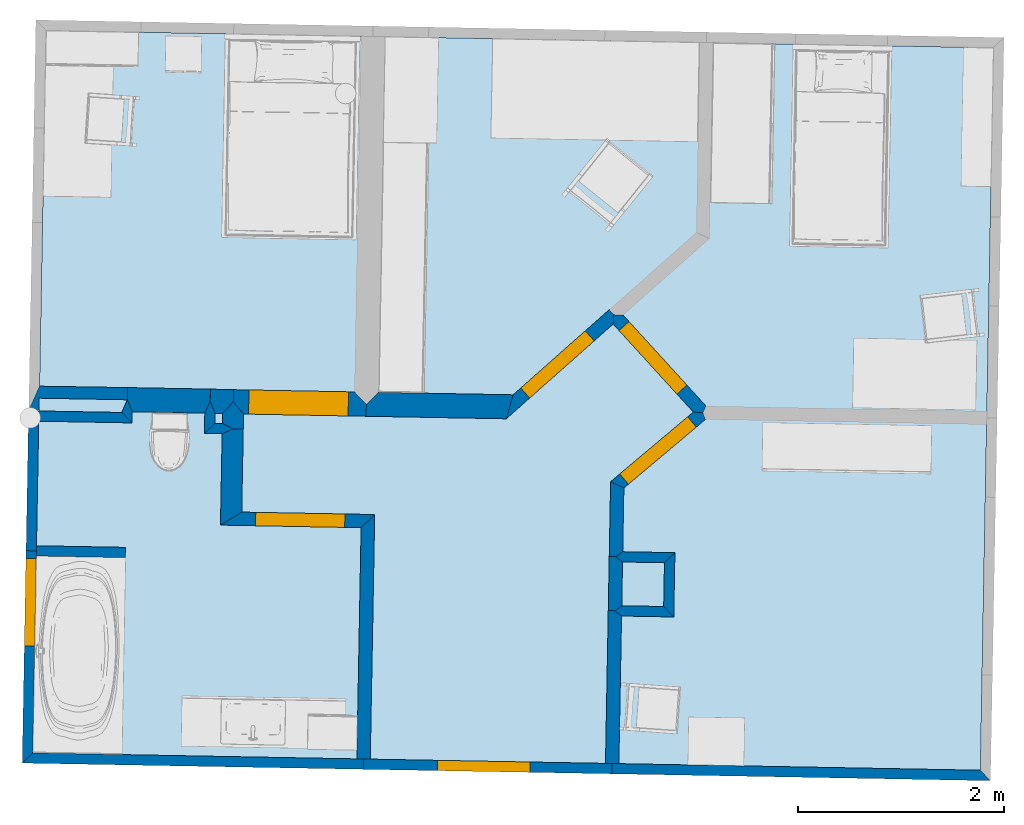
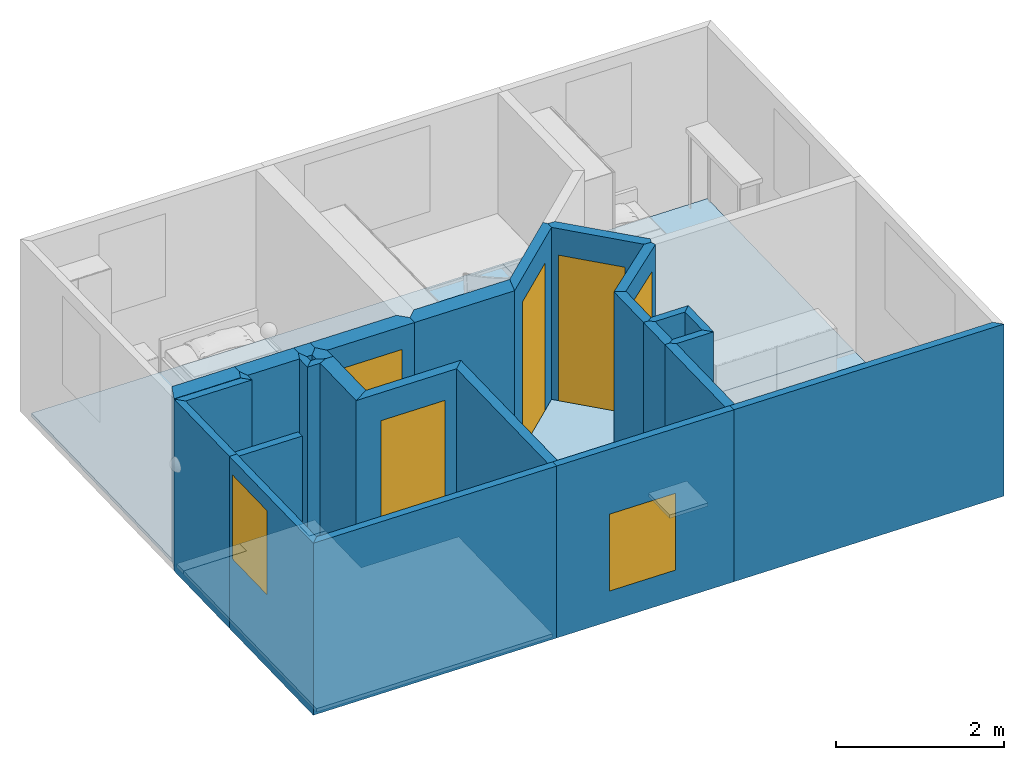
# One storey, part 1 of 9: 28 walls, 9 slabs, 5 doors, 2 windows, 7 openings.
"""IFC2X3 building model written with IfcOpenShell, lengths in metres."""

from ifc_helpers import new_model, si_unit, frame, origin_with_axes, place, context, subcontext, project, spatial, polyline, outline, extrude, type_object, element, fill, save


model = new_model("IFC2X3")

# Units and contexts
model_context = context("Model", 3, precision=1e-05, world=origin_with_axes())
body_context = subcontext(model_context, "Body", "Model", "MODEL_VIEW")
ifc_project = project(units=[si_unit("AREAUNIT", "SQUARE_METRE"), si_unit("LENGTHUNIT", "METRE")], contexts=[model_context])

# Site, building, storey
site_placement = place(None, origin_with_axes())
site = spatial("IfcSite", under=ifc_project, at=site_placement, Name="Site", CompositionType="ELEMENT")
building_placement = place(site_placement, origin_with_axes())
building = spatial("IfcBuilding", under=site, at=building_placement, Name="Building", CompositionType="ELEMENT")
storey_placement = place(building_placement, frame((0.0, 0.0, 5.74363407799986), z_axis=(0.0, 0.0, 1.0), x_axis=(1.0, 0.0, 0.0)))
storey = spatial("IfcBuildingStorey", under=building, at=storey_placement, Name="Story 2", CompositionType="ELEMENT", Elevation=5.7436338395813)

# Slabs
slab_type_1 = type_object("IfcSlabType", PredefinedType="FLOOR")
slab_1_placement = place(storey_placement, frame((-5.7735404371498, -0.941077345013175, 0.0), z_axis=(0.0, 0.0, 1.0), x_axis=(1.0, 0.0, 0.0)))
element("IfcSlab", 1, at=slab_1_placement, inside=storey, type_object=slab_type_1, Name="Floor", ObjectType="Floor:Floor-Grnd-Susp_65Scr-80Ins-100Blk-75PC", PredefinedType="FLOOR", context=body_context, shape_type="SweptSolid", body=[
    extrude(outline(polyline([(0.0, 0.0), (-0.219963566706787, 0.00400375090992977), (-0.224786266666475, -0.260952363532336), (-0.0048226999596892, -0.264956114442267), (0.0, 0.0)])), origin_with_axes(), (0.0, 0.0, -1.0), 0.05),
])
slab_type_2 = type_object("IfcSlabType", PredefinedType="FLOOR")
slab_2_placement = place(storey_placement, frame((-7.65822827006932, -0.906772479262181, 0.0), z_axis=(0.0, 0.0, 1.0), x_axis=(1.0, 0.0, 0.0)))
element("IfcSlab", 2, at=slab_2_placement, inside=storey, type_object=slab_type_2, Name="Floor", ObjectType="Floor:Floor-Grnd-Susp_65Scr-80Ins-100Blk-75PC", PredefinedType="FLOOR", context=body_context, shape_type="SweptSolid", body=[
    extrude(outline(polyline([(0.0, 0.0), (-0.00318480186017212, -0.174971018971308), (0.85667277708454, -0.190622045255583), (0.859857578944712, -0.0156510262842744), (0.0, 0.0)])), origin_with_axes(), (0.0, 0.0, -1.0), 0.05),
])
slab_type_3 = type_object("IfcSlabType", PredefinedType="FLOOR")
slab_3_placement = place(storey_placement, frame((-1.53500917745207, -2.98355208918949, 0.0), z_axis=(0.0, 0.0, 1.0), x_axis=(1.0, 0.0, 0.0)))
element("IfcSlab", 3, at=slab_3_placement, inside=storey, type_object=slab_type_3, Name="Floor", ObjectType="Floor:Floor-Grnd-Susp_65Scr-80Ins-100Blk-75PC", PredefinedType="FLOOR", context=body_context, shape_type="SweptSolid", body=[
    extrude(outline(polyline([(0.0, 0.0), (0.0095544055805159, 0.524913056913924), (-0.515358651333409, 0.534467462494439), (-0.524913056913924, 0.0095544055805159), (0.0, 0.0)])), origin_with_axes(), (0.0, 0.0, -1.0), 0.05),
])
slab_type_4 = type_object("IfcSlabType", PredefinedType="FLOOR")
slab_4_placement = place(storey_placement, frame((-4.4121604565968, 2.61108039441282, 0.0), z_axis=(0.0, 0.0, 1.0), x_axis=(1.0, 0.0, 0.0)))
element("IfcSlab", 4, at=slab_4_placement, inside=storey, type_object=slab_type_4, Name="Floor", ObjectType="Floor:Floor-Grnd-Susp_65Scr-80Ins-100Blk-75PC", PredefinedType="FLOOR", context=body_context, shape_type="SweptSolid", body=[
    extrude(outline(polyline([(0.0, 0.0), (-0.0650911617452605, -3.57603650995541), (-1.35922567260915, -3.55248077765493), (-1.58360715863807, -3.54839660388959), (-2.38871234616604, -3.53374214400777), (-3.24501255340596, -3.51815604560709), (-3.17992211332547, 0.0578811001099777), (0.0, 0.0)])), origin_with_axes(), (0.0, 0.0, -1.0), 0.05),
])
slab_type_5 = type_object("IfcSlabType", PredefinedType="FLOOR")
slab_5_placement = place(storey_placement, frame((1.4935970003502, -4.52392646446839, 0.0), z_axis=(0.0, 0.0, 1.0), x_axis=(1.0, 0.0, 0.0)))
element("IfcSlab", 5, at=slab_5_placement, inside=storey, type_object=slab_type_5, Name="Floor", ObjectType="Floor:Floor-Grnd-Susp_65Scr-80Ins-100Blk-75PC", PredefinedType="FLOOR", context=body_context, shape_type="SweptSolid", body=[
    extrude(outline(polyline([(0.0, 0.0), (-3.58029196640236, 0.0651684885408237), (-3.55325946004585, 1.55029951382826), (-3.03052750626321, 1.5407844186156), (-3.02096353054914, 2.06620672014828), (-3.5436956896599, 2.07572135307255), (-3.53097012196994, 2.77485781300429), (-2.69728105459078, 3.476120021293), (0.0623587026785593, 3.42588438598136), (0.0, 0.0)])), origin_with_axes(), (0.0, 0.0, -1.0), 0.05),
])
slab_type_6 = type_object("IfcSlabType", PredefinedType="FLOOR")
slab_6_placement = place(storey_placement, frame((-6.00054522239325, -1.19979342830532, 0.0), z_axis=(0.0, 0.0, 1.0), x_axis=(1.0, 0.0, 0.0)))
element("IfcSlab", 6, at=slab_6_placement, inside=storey, type_object=slab_type_6, Name="Floor", ObjectType="Floor:Floor-Grnd-Susp_65Scr-80Ins-100Blk-75PC", PredefinedType="FLOOR", context=body_context, shape_type="SweptSolid", body=[
    extrude(outline(polyline([(0.0, 0.0), (0.22438146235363, -0.00408426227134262), (0.208480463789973, -0.877675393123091), (1.53872066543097, -0.90188900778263), (1.49661762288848, -3.21496616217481), (-1.72046993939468, -3.15640797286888), (-1.68470574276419, -1.19158325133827), (-1.66084669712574, 0.119212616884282), (-0.803485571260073, 0.103607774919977), (-0.800327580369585, 0.277131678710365), (0.00488090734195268, 0.268152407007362), (0.0, 0.0)])), origin_with_axes(), (0.0, 0.0, -1.0), 0.05),
])
slab_type_7 = type_object("IfcSlabType", PredefinedType="FLOOR")
slab_7_placement = place(storey_placement, frame((-2.07220520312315, -0.0944287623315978, 0.0), z_axis=(0.0, 0.0, 1.0), x_axis=(1.0, 0.0, 0.0)))
element("IfcSlab", 7, at=slab_7_placement, inside=storey, type_object=slab_type_7, Name="Floor", ObjectType="Floor:Floor-Grnd-Susp_65Scr-80Ins-100Blk-75PC", PredefinedType="FLOOR", context=body_context, shape_type="SweptSolid", body=[
    extrude(outline(polyline([(0.0, 0.0), (0.867823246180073, 0.768983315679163), (0.901997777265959, 2.64649830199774), (3.69367584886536, 2.59568427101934), (3.62816086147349, -1.0036133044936), (0.868521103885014, -0.953377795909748), (0.0, 0.0)])), origin_with_axes(), (0.0, 0.0, -1.0), 0.05),
])
slab_type_8 = type_object("IfcSlabType", PredefinedType="FLOOR")
slab_8_placement = place(storey_placement, frame((-3.08325868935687, -0.990329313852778, 0.0), z_axis=(0.0, 0.0, 1.0), x_axis=(1.0, 0.0, 0.0)))
element("IfcSlab", 8, at=slab_8_placement, inside=storey, type_object=slab_type_8, Name="Floor", ObjectType="Floor:Floor-Grnd-Susp_65Scr-80Ins-100Blk-75PC", PredefinedType="FLOOR", context=body_context, shape_type="SweptSolid", body=[
    extrude(outline(polyline([(0.0, 0.0), (1.01105357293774, 0.895900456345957), (1.8795746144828, -0.0574772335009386), (1.04588575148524, -0.758739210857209), (1.03316000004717, -1.45787579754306), (1.02359622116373, -1.98329763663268), (0.996563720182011, -3.46842883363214), (-1.4206685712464, -3.42442978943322), (-1.37856581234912, -1.11135309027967), (-2.70880624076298, -1.08713958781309), (-2.69290507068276, -0.213548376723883), (-2.68812743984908, 0.0489289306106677), (-1.3939929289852, 0.0253731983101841), (0.0, 0.0)])), origin_with_axes(), (0.0, 0.0, -1.0), 0.05),
])
slab_type_9 = type_object("IfcSlabType", PredefinedType="FLOOR")
slab_9_placement = place(storey_placement, frame((-2.07220520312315, -0.0944287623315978, 0.0), z_axis=(0.0, 0.0, 1.0), x_axis=(1.0, 0.0, 0.0)))
element("IfcSlab", 9, at=slab_9_placement, inside=storey, type_object=slab_type_9, Name="Floor", ObjectType="Floor:Floor-Grnd-Susp_65Scr-80Ins-100Blk-75PC", PredefinedType="FLOOR", context=body_context, shape_type="SweptSolid", body=[
    extrude(outline(polyline([(0.0, 0.0), (-1.01105372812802, -0.895900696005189), (-2.40504641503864, -0.87052734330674), (-2.3399553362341, 2.70550914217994), (0.90199791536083, 2.64649830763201), (0.867823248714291, 0.768983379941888), (0.0, 0.0)])), origin_with_axes(), (0.0, 0.0, -1.0), 0.05),
])

# Wall, opening, door
wall_type_1 = type_object("IfcWallType", PredefinedType="STANDARD")
wall_1_placement = place(storey_placement, frame((-4.5928237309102, -0.845418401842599, 0.0), z_axis=(0.0, 0.0, 1.0), x_axis=(1.0, 0.0, 0.0)))
wall_1 = element("IfcWallStandardCase", 10, at=wall_1_placement, inside=storey, type_object=wall_type_1, Name="Wall", context=body_context, shape_type="SweptSolid", body=[
    extrude(outline(polyline([(0.0, 0.0), (0.115572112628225, -0.119537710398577), (0.113435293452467, -0.236932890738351), (-1.0783857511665, -0.215239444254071), (-1.17856239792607, -0.0959819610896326), (-1.17642557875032, 0.0214132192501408), (0.0, 0.0)])), origin_with_axes(), (0.0, 0.0, 1.0), 2.5045898),
])
opening_1_placement = place(wall_1_placement, frame((-0.0575056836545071, 0.00104671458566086, 0.0), z_axis=(0.0, 0.0, 1.0), x_axis=(-0.999834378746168, 0.0181989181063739, 0.0)))
opening_1 = element("IfcOpeningElement", 11, at=opening_1_placement, cuts=wall_1, Name="OpeningElement", ObjectType="OPENING", context=body_context, shape_type="SweptSolid", body=[
    extrude(outline(polyline([(-8.88178419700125e-16, 0.0), (0.967749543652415, 0.0), (0.967749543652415, 2.16920035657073), (-8.88178419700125e-16, 2.16920035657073), (-8.88178419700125e-16, 0.0)])), frame((0.0, 0.0, 0.0), z_axis=(0.0, -1.0, 0.0), x_axis=(1.0, 0.0, 0.0)), (0.0, 0.0, -1.0), 0.23492925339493),
])
door_style_1 = type_object("IfcDoorStyle", Name="c1308d72-0b3a-43ef-8f4e-69cf9a96507d", ConstructionType="NOTDEFINED", OperationType="NOTDEFINED", ParameterTakesPrecedence=False, Sizeable=False)
door_1_placement = place(opening_1_placement, origin_with_axes())
door_1 = element("IfcDoor", 12, at=door_1_placement, inside=storey, type_object=door_style_1, Name="Door", OverallHeight=2.16920058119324, OverallWidth=0.967749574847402, context=body_context, shape_type="SweptSolid", body=[
    extrude(outline(polyline([(0.0, 0.0), (-0.967749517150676, 0.0), (-0.967749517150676, 2.16920032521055), (0.0, 2.16920032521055), (0.0, 0.0)])), frame((0.0, 0.23482925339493, 0.0), z_axis=(0.0, 1.0, 0.0), x_axis=(-1.0, 0.0, 0.0)), (0.0, 0.0, -1.0), 0.23482925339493),
])
fill(opening_1, door_1)

# Walls
wall_type_2 = type_object("IfcWallType", PredefinedType="STANDARD")
wall_2_placement = place(storey_placement, frame((-5.99260674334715, -0.818051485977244, 0.0), z_axis=(0.0, 0.0, 1.0), x_axis=(1.0, 0.0, 0.0)))
element("IfcWallStandardCase", 13, at=wall_2_placement, inside=storey, type_object=wall_type_2, Name="Wall", context=body_context, shape_type="SweptSolid", body=[
    extrude(outline(polyline([(0.0, 0.0), (0.224347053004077, -0.00597588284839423), (0.221220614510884, -0.123348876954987), (0.116785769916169, -0.238023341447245), (0.0447207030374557, -0.236103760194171), (-0.00312643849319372, -0.117372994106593), (0.0, 0.0)])), origin_with_axes(), (0.0, 0.0, 1.0), 2.5045898),
])
wall_type_3 = type_object("IfcWallType", PredefinedType="STANDARD")
wall_3_placement = place(storey_placement, frame((-6.79896091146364, -0.803370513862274, 0.0), z_axis=(0.0, 0.0, 1.0), x_axis=(1.0, 0.0, 0.0)))
element("IfcWallStandardCase", 14, at=wall_3_placement, inside=storey, type_object=wall_type_3, Name="Wall", context=body_context, shape_type="SweptSolid", body=[
    extrude(outline(polyline([(0.0, 0.0), (-0.00187746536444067, -0.117399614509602), (-0.0540075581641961, -0.23399558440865), (-0.960336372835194, -0.219501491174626), (-0.856075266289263, 0.0136904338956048), (0.0, 0.0)])), origin_with_axes(), (0.0, 0.0, 1.0), 2.5045898),
])
wall_type_4 = type_object("IfcWallType", PredefinedType="STANDARD")
wall_4_placement = place(storey_placement, frame((-5.99359637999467, -0.818029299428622, 0.0), z_axis=(0.0, 0.0, 1.0), x_axis=(1.0, 0.0, 0.0)))
element("IfcWallStandardCase", 15, at=wall_4_placement, inside=storey, type_object=wall_type_4, Name="Wall", context=body_context, shape_type="SweptSolid", body=[
    extrude(outline(polyline([(0.0, 0.0), (-0.00213680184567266, -0.117395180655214), (-0.0542653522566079, -0.233880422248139), (-0.759386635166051, -0.221045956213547), (-0.807241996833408, -0.102740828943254), (-0.805105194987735, 0.0146543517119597), (0.0, 0.0)])), origin_with_axes(), (0.0, 0.0, 1.0), 2.5045898),
])
wall_type_5 = type_object("IfcWallType", PredefinedType="STANDARD")
wall_5_placement = place(storey_placement, frame((1.49359704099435, -4.52392646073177, 0.0), z_axis=(0.0, 0.0, 1.0), x_axis=(1.0, 0.0, 0.0)))
element("IfcWallStandardCase", 16, at=wall_5_placement, inside=storey, type_object=wall_type_5, Name="Wall", context=body_context, shape_type="SweptSolid", body=[
    extrude(outline(polyline([(0.0, 0.0), (0.098163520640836, -0.101803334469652), (-3.58211190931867, -0.0348150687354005), (-3.5802920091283, 0.0651683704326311), (-3.51512501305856, 0.0639822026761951), (0.0, 0.0)])), origin_with_axes(), (0.0, 0.0, 1.0), 2.5045898),
])
wall_type_6 = type_object("IfcWallType", PredefinedType="STANDARD")
wall_6_placement = place(storey_placement, frame((-2.10200085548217, -1.71826088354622, 0.0), z_axis=(0.0, 0.0, 1.0), x_axis=(1.0, 0.0, 0.0)))
element("IfcWallStandardCase", 17, at=wall_6_placement, inside=storey, type_object=wall_type_6, Name="Wall", context=body_context, shape_type="SweptSolid", body=[
    extrude(outline(polyline([(0.0, 0.0), (0.129255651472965, -0.0616154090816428), (0.117979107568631, -0.681138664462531), (0.0519021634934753, -0.729944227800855), (-0.0132648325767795, -0.728758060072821), (0.0, 0.0)])), origin_with_axes(), (0.0, 0.0, 1.0), 2.5045898),
])
wall_type_7 = type_object("IfcWallType", PredefinedType="STANDARD")
wall_7_placement = place(storey_placement, frame((-1.58601219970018, -2.93224024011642, 0.0), z_axis=(0.0, 0.0, 1.0), x_axis=(1.0, 0.0, 0.0)))
element("IfcWallStandardCase", 18, at=wall_7_placement, inside=storey, type_object=wall_type_7, Name="Wall", context=body_context, shape_type="SweptSolid", body=[
    extrude(outline(polyline([(0.0, 0.0), (0.09816351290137, -0.101803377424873), (-0.409393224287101, -0.0925646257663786), (-0.473650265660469, -0.0413867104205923), (-0.407573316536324, 0.00741881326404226), (0.0, 0.0)])), origin_with_axes(), (0.0, 0.0, 1.0), 2.5045898),
])
wall_type_8 = type_object("IfcWallType", PredefinedType="STANDARD")
wall_8_placement = place(storey_placement, frame((-1.4764648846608, -2.40863799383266, 0.0), z_axis=(0.0, 0.0, 1.0), x_axis=(1.0, 0.0, 0.0)))
element("IfcWallStandardCase", 19, at=wall_8_placement, inside=storey, type_object=wall_type_8, Name="Wall", context=body_context, shape_type="SweptSolid", body=[
    extrude(outline(polyline([(0.0, 0.0), (-0.101803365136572, -0.0981635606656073), (-0.509376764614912, -0.0907449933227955), (-0.57363380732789, -0.0395671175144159), (-0.507556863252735, 0.00923844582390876), (0.0, 0.0)])), origin_with_axes(), (0.0, 0.0, 1.0), 2.5045898),
])
wall_type_9 = type_object("IfcWallType", PredefinedType="STANDARD")
wall_9_placement = place(storey_placement, frame((-2.12482946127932, -2.97244077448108, 0.0), z_axis=(0.0, 0.0, 1.0), x_axis=(1.0, 0.0, 0.0)))
element("IfcWallStandardCase", 20, at=wall_9_placement, inside=storey, type_object=wall_type_9, Name="Wall", context=body_context, shape_type="SweptSolid", body=[
    extrude(outline(polyline([(0.0, 0.0), (0.0651669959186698, -0.00118617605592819), (0.129424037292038, -0.0523640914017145), (0.103301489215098, -1.48750348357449), (0.0381344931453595, -1.48631731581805), (-0.0270325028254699, -1.48513114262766), (0.0, 0.0)])), origin_with_axes(), (0.0, 0.0, 1.0), 2.5045898),
])
wall_type_10 = type_object("IfcWallType", PredefinedType="STANDARD")
wall_10_placement = place(storey_placement, frame((-1.57826824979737, -2.50680155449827, 0.0), z_axis=(0.0, 0.0, 1.0), x_axis=(1.0, 0.0, 0.0)))
element("IfcWallStandardCase", 21, at=wall_10_placement, inside=storey, type_object=wall_type_10, Name="Wall", context=body_context, shape_type="SweptSolid", body=[
    extrude(outline(polyline([(0.0, 0.0), (0.101803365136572, 0.0981635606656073), (0.0904195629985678, -0.527242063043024), (-0.00774394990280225, -0.425438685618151), (0.0, 0.0)])), origin_with_axes(), (0.0, 0.0, 1.0), 2.5045898),
])

# Wall, opening, door
wall_type_11 = type_object("IfcWallType", PredefinedType="STANDARD")
wall_11_placement = place(storey_placement, frame((-1.2975294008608, -1.0415752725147, 0.0), z_axis=(0.0, 0.0, 1.0), x_axis=(1.0, 0.0, 0.0)))
wall_11 = element("IfcWallStandardCase", 22, at=wall_11_placement, inside=storey, type_object=wall_type_11, Name="Wall", context=body_context, shape_type="SweptSolid", body=[
    extrude(outline(polyline([(0.0, 0.0), (0.0938453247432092, -0.0062312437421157), (0.117096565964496, -0.0718430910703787), (-0.675215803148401, -0.73830102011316), (-0.804471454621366, -0.676685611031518), (0.0, 0.0)])), origin_with_axes(), (0.0, 0.0, 1.0), 2.5045898),
])
opening_2_placement = place(wall_11_placement, frame((-0.0549251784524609, -0.0462006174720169, 0.0), z_axis=(0.0, 0.0, 1.0), x_axis=(-0.765269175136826, -0.643710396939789, 0.0)))
opening_2 = element("IfcOpeningElement", 23, at=opening_2_placement, cuts=wall_11, Name="OpeningElement", ObjectType="OPENING", context=body_context, shape_type="SweptSolid", body=[
    extrude(outline(polyline([(1.11022302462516e-16, 0.0), (0.862837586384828, 0.0), (0.862837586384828, 2.18931483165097), (1.11022302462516e-16, 2.18931483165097), (1.11022302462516e-16, 0.0)])), frame((0.0, 0.0, 0.0), z_axis=(0.0, -1.0, 0.0), x_axis=(1.0, 0.0, 0.0)), (0.0, 0.0, -1.0), 0.130455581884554),
])
door_style_2 = type_object("IfcDoorStyle", Name="886e7515-3cb0-4404-8f9d-940108160c8b", ConstructionType="NOTDEFINED", OperationType="NOTDEFINED", ParameterTakesPrecedence=False, Sizeable=False)
door_2_placement = place(opening_2_placement, origin_with_axes())
door_2 = element("IfcDoor", 24, at=door_2_placement, inside=storey, type_object=door_style_2, Name="Door", OverallHeight=2.1893148, OverallWidth=0.862837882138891, context=body_context, shape_type="SweptSolid", body=[
    extrude(outline(polyline([(0.0, 0.0), (-0.862837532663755, 0.0), (-0.862837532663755, 2.1893148), (0.0, 2.1893148), (0.0, 0.0)])), frame((0.0, 0.130355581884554, 0.0), z_axis=(0.0, 1.0, 0.0), x_axis=(-1.0, 0.0, 0.0)), (0.0, 0.0, -1.0), 0.130355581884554),
])
fill(opening_2, door_2)

# Walls
wall_type_12 = type_object("IfcWallType", PredefinedType="STANDARD")
wall_12_placement = place(storey_placement, frame((-5.94964356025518, -1.15071150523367, 0.0), z_axis=(0.0, 0.0, 1.0), x_axis=(1.0, 0.0, 0.0)))
element("IfcWallStandardCase", 25, at=wall_12_placement, inside=storey, type_object=wall_type_12, Name="Wall", context=body_context, shape_type="SweptSolid", body=[
    extrude(outline(polyline([(0.0, 0.0), (0.0720760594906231, -0.00131202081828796), (0.173479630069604, -0.0531661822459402), (0.0702561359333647, -0.101295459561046), (-0.101803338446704, -0.0981634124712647), (0.0, 0.0)])), origin_with_axes(), (0.0, 0.0, 1.0), 2.5045898),
])
wall_type_13 = type_object("IfcWallType", PredefinedType="STANDARD")
wall_13_placement = place(storey_placement, frame((-5.87938742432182, -1.25200696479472, 0.0), z_axis=(0.0, 0.0, 1.0), x_axis=(1.0, 0.0, 0.0)))
element("IfcWallStandardCase", 26, at=wall_13_placement, inside=storey, type_object=wall_type_13, Name="Wall", context=body_context, shape_type="SweptSolid", body=[
    extrude(outline(polyline([(0.0, 0.0), (0.103223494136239, 0.0481292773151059), (0.205537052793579, 0.0462669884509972), (0.190822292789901, -0.762157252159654), (-0.0161771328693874, -0.888766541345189), (0.0, 0.0)])), origin_with_axes(), (0.0, 0.0, 1.0), 2.5045898),
])
wall_type_14 = type_object("IfcWallType", PredefinedType="STANDARD")
wall_14_placement = place(storey_placement, frame((-6.85311256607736, -1.04528435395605, 0.0), z_axis=(0.0, 0.0, 1.0), x_axis=(1.0, 0.0, 0.0)))
element("IfcWallStandardCase", 27, at=wall_14_placement, inside=storey, type_object=wall_type_14, Name="Wall", context=body_context, shape_type="SweptSolid", body=[
    extrude(outline(polyline([(0.0, 0.0), (0.0981639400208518, -0.101803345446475), (-0.809189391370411, -0.0852876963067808), (-0.90735291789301, 0.0165156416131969), (0.0, 0.0)])), origin_with_axes(), (0.0, 0.0, 1.0), 2.5045898),
])
wall_type_15 = type_object("IfcWallType", PredefinedType="STANDARD")
wall_15_placement = place(storey_placement, frame((-7.76046548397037, -1.02876871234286, 0.0), z_axis=(0.0, 0.0, 1.0), x_axis=(1.0, 0.0, 0.0)))
element("IfcWallStandardCase", 28, at=wall_15_placement, inside=storey, type_object=wall_type_15, Name="Wall", context=body_context, shape_type="SweptSolid", body=[
    extrude(outline(polyline([(0.0, 0.0), (0.0981635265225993, -0.101803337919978), (0.0761241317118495, -1.31261665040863), (0.0752141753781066, -1.3626083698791), (-0.0247692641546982, -1.36078848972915), (0.0, 0.0)])), origin_with_axes(), (0.0, 0.0, 1.0), 2.5045898),
])

# Wall, opening, window
wall_type_16 = type_object("IfcWallType", PredefinedType="STANDARD")
wall_16_placement = place(storey_placement, frame((-7.78523474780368, -2.38955718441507, 0.0), z_axis=(0.0, 0.0, 1.0), x_axis=(1.0, 0.0, 0.0)))
wall_16 = element("IfcWallStandardCase", 29, at=wall_16_placement, inside=storey, type_object=wall_type_16, Name="Wall", context=body_context, shape_type="SweptSolid", body=[
    extrude(outline(polyline([(0.0, 0.0), (0.0999834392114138, -0.00181989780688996), (0.0990734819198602, -0.0518116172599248), (0.0642193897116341, -1.96664434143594), (-0.0375839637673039, -2.06480786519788), (0.0, 0.0)])), origin_with_axes(), (0.0, 0.0, 1.0), 2.5045898),
])
opening_3_placement = place(wall_16_placement, frame((0.0831373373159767, -0.927320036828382, 1.05758511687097), z_axis=(0.0, 0.0, 1.0), x_axis=(0.0181991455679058, 0.999834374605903, 0.0)))
opening_3 = element("IfcOpeningElement", 30, at=opening_3_placement, cuts=wall_16, Name="OpeningElement", ObjectType="OPENING", context=body_context, shape_type="SweptSolid", body=[
    extrude(outline(polyline([(1.66533453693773e-16, 0.0), (0.850924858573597, 0.0), (0.850924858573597, 1.22356961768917), (1.66533453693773e-16, 1.22356961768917), (1.66533453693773e-16, 0.0)])), frame((0.0, 0.0, 0.0), z_axis=(0.0, -1.0, 0.0), x_axis=(1.0, 0.0, 0.0)), (0.0, 0.0, -1.0), 0.100100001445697),
])
window_style_1 = type_object("IfcWindowStyle", Name="39d028ae-d947-4b0d-b80b-2f898228ae9d", ConstructionType="ALUMINIUM", OperationType="SINGLE_PANEL", ParameterTakesPrecedence=True, Sizeable=True)
window_1_placement = place(opening_3_placement, origin_with_axes())
window_1 = element("IfcWindow", 31, at=window_1_placement, inside=storey, type_object=window_style_1, Name="Window", OverallHeight=1.5, OverallWidth=0.5, context=body_context, shape_type="SweptSolid", body=[
    extrude(outline(polyline([(-2.77555756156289e-17, 0.0), (-0.850924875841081, 0.0), (-0.850924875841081, 1.2235696), (-2.77555756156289e-17, 1.2235696), (-2.77555756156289e-17, 0.0)])), frame((0.0, 0.100000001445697, 0.0), z_axis=(0.0, 1.0, 0.0), x_axis=(-1.0, 0.0, 0.0)), (0.0, 0.0, -1.0), 0.100000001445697),
])
fill(opening_3, window_1)

# Walls
wall_type_17 = type_object("IfcWallType", PredefinedType="STANDARD")
wall_17_placement = place(storey_placement, frame((-4.52817770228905, -2.16566322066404, 0.0), z_axis=(0.0, 0.0, 1.0), x_axis=(1.0, 0.0, 0.0)))
element("IfcWallStandardCase", 32, at=wall_17_placement, inside=storey, type_object=wall_type_17, Name="Wall", context=body_context, shape_type="SweptSolid", body=[
    extrude(outline(polyline([(0.0, 0.0), (0.132706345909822, 0.127961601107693), (0.0894172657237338, -2.25028244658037), (0.0242502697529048, -2.24909627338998), (-0.0409167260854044, -2.24791009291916), (0.0, 0.0)])), origin_with_axes(), (0.0, 0.0, 1.0), 2.5045898),
])
wall_type_18 = type_object("IfcWallType", PredefinedType="STANDARD")
wall_18_placement = place(storey_placement, frame((-6.81921311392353, -2.35713308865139, 0.0), z_axis=(0.0, 0.0, 1.0), x_axis=(1.0, 0.0, 0.0)))
element("IfcWallStandardCase", 33, at=wall_18_placement, inside=storey, type_object=wall_type_18, Name="Wall", context=body_context, shape_type="SweptSolid", body=[
    extrude(outline(polyline([(0.0, 0.0), (-0.00181997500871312, -0.0999834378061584), (-0.866948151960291, -0.0842357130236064), (-0.866038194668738, -0.0342439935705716), (-0.865128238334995, 0.0157477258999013), (0.0, 0.0)])), origin_with_axes(), (0.0, 0.0, 1.0), 2.5045898),
])
wall_type_19 = type_object("IfcWallType", PredefinedType="STANDARD")
wall_19_placement = place(storey_placement, frame((-6.80083837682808, -0.920770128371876, 0.0), z_axis=(0.0, 0.0, 1.0), x_axis=(1.0, 0.0, 0.0)))
element("IfcWallStandardCase", 34, at=wall_19_placement, inside=storey, type_object=wall_type_19, Name="Wall", context=body_context, shape_type="SweptSolid", body=[
    extrude(outline(polyline([(0.0, 0.0), (0.0478553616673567, -0.118305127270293), (0.0458897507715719, -0.226317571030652), (-0.05227418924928, -0.124514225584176), (-0.0521300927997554, -0.116595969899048), (0.0, 0.0)])), origin_with_axes(), (0.0, 0.0, 1.0), 2.5045898),
])
wall_type_20 = type_object("IfcWallType", PredefinedType="STANDARD")
wall_20_placement = place(storey_placement, frame((-4.56909442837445, -4.41357331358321, 0.0), z_axis=(0.0, 0.0, 1.0), x_axis=(1.0, 0.0, 0.0)))
element("IfcWallStandardCase", 35, at=wall_20_placement, inside=storey, type_object=wall_type_20, Name="Wall", context=body_context, shape_type="SweptSolid", body=[
    extrude(outline(polyline([(0.0, 0.0), (0.0651669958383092, -0.00118618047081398), (0.0633470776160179, -0.101169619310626), (-3.25372428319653, -0.0407917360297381), (-3.15192092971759, 0.0573717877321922), (0.0, 0.0)])), origin_with_axes(), (0.0, 0.0, 1.0), 2.5045898),
])
wall_type_21 = type_object("IfcWallType", PredefinedType="STANDARD")
wall_21_placement = place(storey_placement, frame((-5.99573318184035, -0.935424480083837, 0.0), z_axis=(0.0, 0.0, 1.0), x_axis=(1.0, 0.0, 0.0)))
element("IfcWallStandardCase", 36, at=wall_21_placement, inside=storey, type_object=wall_type_21, Name="Wall", context=body_context, shape_type="SweptSolid", body=[
    extrude(outline(polyline([(0.0, 0.0), (0.0478471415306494, -0.118730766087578), (0.0460896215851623, -0.215287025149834), (-0.0557137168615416, -0.313450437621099), (-0.0521285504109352, -0.116485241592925), (0.0, 0.0)])), origin_with_axes(), (0.0, 0.0, 1.0), 2.5045898),
])

# Wall, opening, door
wall_type_22 = type_object("IfcWallType", PredefinedType="STANDARD")
wall_22_placement = place(storey_placement, frame((-4.39547135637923, -2.03770161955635, 0.0), z_axis=(0.0, 0.0, 1.0), x_axis=(1.0, 0.0, 0.0)))
wall_22 = element("IfcWallStandardCase", 37, at=wall_22_placement, inside=storey, type_object=wall_type_22, Name="Wall", context=body_context, shape_type="SweptSolid", body=[
    extrude(outline(polyline([(0.0, 0.0), (-0.132706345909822, -0.127961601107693), (-1.50009320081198, -0.103071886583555), (-1.29309377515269, 0.0235374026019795), (0.0, 0.0)])), origin_with_axes(), (0.0, 0.0, 1.0), 2.5045898),
])
opening_4_placement = place(wall_22_placement, frame((-1.15885490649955, -0.109283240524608, 0.0), z_axis=(0.0, 0.0, 1.0), x_axis=(0.999834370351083, -0.0181993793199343, 0.0)))
opening_4 = element("IfcOpeningElement", 38, at=opening_4_placement, cuts=wall_22, Name="OpeningElement", ObjectType="OPENING", context=body_context, shape_type="SweptSolid", body=[
    extrude(outline(polyline([(8.88178419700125e-16, 0.0), (0.866465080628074, 0.0), (0.866465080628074, 2.09763033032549), (8.88178419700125e-16, 2.09763033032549), (8.88178419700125e-16, 0.0)])), frame((0.0, 0.0, 0.0), z_axis=(0.0, -1.0, 0.0), x_axis=(1.0, 0.0, 0.0)), (0.0, 0.0, -1.0), 0.130455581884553),
])
door_style_3 = type_object("IfcDoorStyle", Name="c78be9d6-8476-4d29-8efb-0273d6614dbd", ConstructionType="NOTDEFINED", OperationType="NOTDEFINED", ParameterTakesPrecedence=False, Sizeable=False)
door_3_placement = place(opening_4_placement, origin_with_axes())
door_3 = element("IfcDoor", 39, at=door_3_placement, inside=storey, type_object=door_style_3, Name="Door", OverallHeight=2.0976303, OverallWidth=0.866465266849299, context=body_context, shape_type="SweptSolid", body=[
    extrude(outline(polyline([(0.0, 0.0), (-0.866465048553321, 0.0), (-0.866465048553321, 2.0976303), (0.0, 2.0976303), (0.0, 0.0)])), frame((0.0, 0.130355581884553, 0.0), z_axis=(0.0, 1.0, 0.0), x_axis=(-1.0, 0.0, 0.0)), (0.0, 0.0, -1.0), 0.130355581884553),
])
fill(opening_4, door_3)

wall_type_23 = type_object("IfcWallType", PredefinedType="STANDARD")
wall_23_placement = place(storey_placement, frame((-2.07709397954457, -0.185845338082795, 0.0), z_axis=(0.0, 0.0, 1.0), x_axis=(1.0, 0.0, 0.0)))
wall_23 = element("IfcWallStandardCase", 40, at=wall_23_placement, inside=storey, type_object=wall_type_23, Name="Wall", context=body_context, shape_type="SweptSolid", body=[
    extrude(outline(polyline([(0.0, 0.0), (0.00488880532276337, 0.0914165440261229), (0.0975729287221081, 0.0864599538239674), (0.902677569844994, -0.79730536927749), (0.873409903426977, -0.861961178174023), (0.779564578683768, -0.855729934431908), (0.0, 0.0)])), origin_with_axes(), (0.0, 0.0, 1.0), 2.5045898),
])
opening_5_placement = place(wall_23_placement, frame((0.716331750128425, -0.592753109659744, 0.0), z_axis=(0.0, 0.0, 1.0), x_axis=(-0.673442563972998, 0.739239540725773, 0.0)))
opening_5 = element("IfcOpeningElement", 41, at=opening_5_placement, cuts=wall_23, Name="OpeningElement", ObjectType="OPENING", context=body_context, shape_type="SweptSolid", body=[
    extrude(outline(polyline([(1.11022302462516e-16, 0.0), (0.834354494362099, 0.0), (0.834354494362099, 2.11874531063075), (1.11022302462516e-16, 2.11874531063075), (1.11022302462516e-16, 0.0)])), frame((0.0, 0.0, 0.0), z_axis=(0.0, -1.0, 0.0), x_axis=(1.0, 0.0, 0.0)), (0.0, 0.0, -1.0), 0.130455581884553),
])
door_style_4 = type_object("IfcDoorStyle", Name="887efcb5-b1ac-44dd-8438-cd4a9349de27", ConstructionType="NOTDEFINED", OperationType="NOTDEFINED", ParameterTakesPrecedence=False, Sizeable=False)
door_4_placement = place(opening_5_placement, origin_with_axes())
door_4 = element("IfcDoor", 42, at=door_4_placement, inside=storey, type_object=door_style_4, Name="Door", OverallHeight=2.11874528, OverallWidth=0.834354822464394, context=body_context, shape_type="SweptSolid", body=[
    extrude(outline(polyline([(0.0, 0.0), (-0.834354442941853, 0.0), (-0.834354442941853, 2.11874528), (0.0, 2.11874528), (0.0, 0.0)])), frame((0.0, 0.130355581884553, 0.0), z_axis=(0.0, 1.0, 0.0), x_axis=(-1.0, 0.0, 0.0)), (0.0, 0.0, -1.0), 0.130355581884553),
])
fill(opening_5, door_4)

wall_type_24 = type_object("IfcWallType", PredefinedType="STANDARD")
wall_24_placement = place(storey_placement, frame((-2.11543105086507, -0.0456469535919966, 0.0), z_axis=(0.0, 0.0, 1.0), x_axis=(1.0, 0.0, 0.0)))
wall_24 = element("IfcWallStandardCase", 43, at=wall_24_placement, inside=storey, type_object=wall_type_24, Name="Wall", context=body_context, shape_type="SweptSolid", body=[
    extrude(outline(polyline([(0.0, 0.0), (0.0432258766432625, -0.0487818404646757), (0.0383370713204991, -0.140198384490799), (-1.00138882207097, -1.06150563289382), (-0.93426669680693, -0.827859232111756), (0.0, 0.0)])), origin_with_axes(), (0.0, 0.0, 1.0), 2.5045898),
])
opening_6_placement = place(wall_24_placement, frame((-0.232707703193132, -0.206203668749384, 0.0), z_axis=(0.0, 0.0, 1.0), x_axis=(-0.748442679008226, -0.663199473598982, 0.0)))
opening_6 = element("IfcOpeningElement", 44, at=opening_6_placement, cuts=wall_24, Name="OpeningElement", ObjectType="OPENING", context=body_context, shape_type="SweptSolid", body=[
    extrude(outline(polyline([(0.0, 0.0), (0.838237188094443, 0.0), (0.838237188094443, 2.14533822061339), (0.0, 2.14533822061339), (0.0, 0.0)])), frame((0.0, 0.0, 0.0), z_axis=(0.0, -1.0, 0.0), x_axis=(1.0, 0.0, 0.0)), (0.0, 0.0, -1.0), 0.130455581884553),
])
door_style_5 = type_object("IfcDoorStyle", Name="7c8e877b-0d0c-487a-b432-7e8985aa4b71", ConstructionType="NOTDEFINED", OperationType="NOTDEFINED", ParameterTakesPrecedence=False, Sizeable=False)
door_5_placement = place(opening_6_placement, origin_with_axes())
door_5 = element("IfcDoor", 45, at=door_5_placement, inside=storey, type_object=door_style_5, Name="Door", OverallHeight=2.14533826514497, OverallWidth=0.838237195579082, context=body_context, shape_type="SweptSolid", body=[
    extrude(outline(polyline([(-2.22044604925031e-16, 0.0), (-0.838237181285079, 0.0), (-0.838237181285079, 2.14533818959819), (-2.22044604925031e-16, 2.14533818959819), (-2.22044604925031e-16, 0.0)])), frame((0.0, 0.130355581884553, 0.0), z_axis=(0.0, 1.0, 0.0), x_axis=(-1.0, 0.0, 0.0)), (0.0, 0.0, -1.0), 0.130355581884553),
])
fill(opening_6, door_5)

# Wall, opening, window
wall_type_25 = type_object("IfcWallType", PredefinedType="STANDARD")
wall_25_placement = place(storey_placement, frame((-2.15186196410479, -4.45757191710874, 0.0), z_axis=(0.0, 0.0, 1.0), x_axis=(1.0, 0.0, 0.0)))
wall_25 = element("IfcWallStandardCase", 46, at=wall_25_placement, inside=storey, type_object=wall_type_25, Name="Wall", context=body_context, shape_type="SweptSolid", body=[
    extrude(outline(polyline([(0.0, 0.0), (0.0651669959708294, -0.00118617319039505), (0.0633470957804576, -0.101169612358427), (-2.35388536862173, -0.057171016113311), (-2.35206546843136, 0.0428124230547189), (-2.28689847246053, 0.041626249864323), (0.0, 0.0)])), origin_with_axes(), (0.0, 0.0, 1.0), 2.5045898),
])
opening_7_placement = place(wall_25_placement, frame((-0.734019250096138, 0.013360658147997, 0.440685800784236), z_axis=(0.0, 0.0, 1.0), x_axis=(-0.999834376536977, 0.0181990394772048, 0.0)))
opening_7 = element("IfcOpeningElement", 47, at=opening_7_placement, cuts=wall_25, Name="OpeningElement", ObjectType="OPENING", context=body_context, shape_type="SweptSolid", body=[
    extrude(outline(polyline([(0.0, 0.0), (0.897375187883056, 0.0), (0.897375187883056, 1.11817092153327), (0.0, 1.11817092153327), (0.0, 0.0)])), frame((0.0, 0.0, 0.0), z_axis=(0.0, -1.0, 0.0), x_axis=(1.0, 0.0, 0.0)), (0.0, 0.0, -1.0), 0.100100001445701),
])
window_style_2 = type_object("IfcWindowStyle", Name="a662e35c-9a46-4822-8e32-a05377902c31", ConstructionType="ALUMINIUM", OperationType="SINGLE_PANEL", ParameterTakesPrecedence=True, Sizeable=True)
window_2_placement = place(opening_7_placement, origin_with_axes())
window_2 = element("IfcWindow", 48, at=window_2_placement, inside=storey, type_object=window_style_2, Name="Window", OverallHeight=1.5, OverallWidth=0.5, context=body_context, shape_type="SweptSolid", body=[
    extrude(outline(polyline([(-4.44089209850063e-16, 0.0), (-0.897375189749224, 0.0), (-0.897375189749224, 1.11817090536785), (-4.44089209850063e-16, 1.11817090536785), (-4.44089209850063e-16, 0.0)])), frame((0.0, 0.100000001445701, 0.0), z_axis=(0.0, 1.0, 0.0), x_axis=(-1.0, 0.0, 0.0)), (0.0, 0.0, -1.0), 0.100000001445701),
])
fill(opening_7, window_2)

# Walls
wall_type_26 = type_object("IfcWallType", PredefinedType="STANDARD")
wall_26_placement = place(storey_placement, frame((-2.11526568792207, -2.44701893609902, 0.0), z_axis=(0.0, 0.0, 1.0), x_axis=(1.0, 0.0, 0.0)))
element("IfcWallStandardCase", 49, at=wall_26_placement, inside=storey, type_object=wall_type_26, Name="Wall", context=body_context, shape_type="SweptSolid", body=[
    extrude(outline(polyline([(0.0, 0.0), (0.0651669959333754, -0.00118617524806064), (0.129424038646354, -0.0523640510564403), (0.121680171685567, -0.477802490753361), (0.0556032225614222, -0.526608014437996), (-0.00956377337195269, -0.525421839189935), (0.0, 0.0)])), origin_with_axes(), (0.0, 0.0, 1.0), 2.5045898),
])
wall_type_27 = type_object("IfcWallType", PredefinedType="STANDARD")
wall_27_placement = place(storey_placement, frame((-3.049697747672, -0.873506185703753, 0.0), z_axis=(0.0, 0.0, 1.0), x_axis=(1.0, 0.0, 0.0)))
element("IfcWallStandardCase", 50, at=wall_27_placement, inside=storey, type_object=wall_type_27, Name="Wall", context=body_context, shape_type="SweptSolid", body=[
    extrude(outline(polyline([(0.0, 0.0), (-0.0671221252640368, -0.233646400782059), (-1.42969068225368, -0.208845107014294), (-1.42755387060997, -0.0914499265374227), (-1.30770809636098, 0.0238027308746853), (0.0, 0.0)])), origin_with_axes(), (0.0, 0.0, 1.0), 2.5045898),
])
wall_type_28 = type_object("IfcWallType", PredefinedType="STANDARD")
wall_28_placement = place(storey_placement, frame((-5.77138612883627, -0.941400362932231, 0.0), z_axis=(0.0, 0.0, 1.0), x_axis=(1.0, 0.0, 0.0)))
element("IfcWallStandardCase", 51, at=wall_28_placement, inside=storey, type_object=wall_type_28, Name="Wall", context=body_context, shape_type="SweptSolid", body=[
    extrude(outline(polyline([(0.0, 0.0), (0.100176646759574, -0.119257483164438), (0.0975357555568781, -0.264339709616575), (-0.00477780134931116, -0.26247732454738), (-0.106181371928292, -0.210623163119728), (-0.104434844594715, -0.114674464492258), (0.0, 0.0)])), origin_with_axes(), (0.0, 0.0, 1.0), 2.5045898),
])

save(model, "model.ifc")
